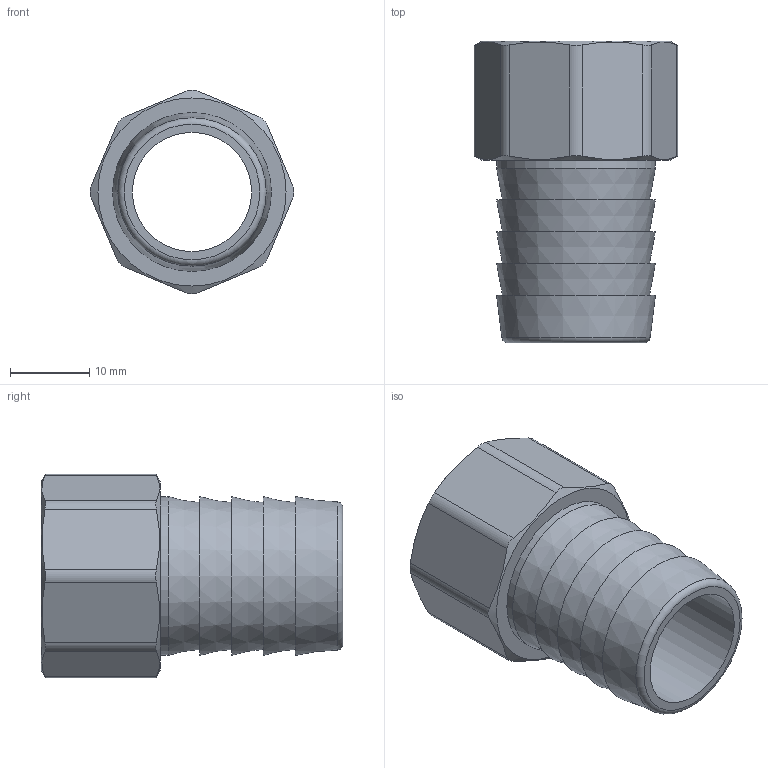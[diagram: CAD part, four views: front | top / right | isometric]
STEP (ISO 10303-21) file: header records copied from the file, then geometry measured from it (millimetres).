
FILE_DESCRIPTION(('STEP AP203'), '1');
FILE_NAME('覆.753154.016 - VTr.654.N.0420 幄鼭歑', '2024-08-02T07:37:05', ('Boss'), (''), 'C3D Converter', 'C3D Toolkit', '');
FILE_SCHEMA(('CONFIG_CONTROL_DESIGN'));
Length unit declared in the file: millimetre
Products named in the file (1): ВР.753154.016
Bounding box: 25.65 x 38 x 25.65 mm (x, y, z)
Volume: 5916.1 mm3; surface area: 5152.8 mm2
Topology: 1 solids, 1 shells, 37 faces, 83 edges, 54 vertices
Faces by surface type: plane 16, cylinder 11, cone 9, torus 1
Full cylindrical faces by diameter (mm): 15 x1, 18.632 x1, 20 x1
Entity records: 1985 total; most frequent: CARTESIAN_POINT 1220, ORIENTED_EDGE 140, DIRECTION 132, EDGE_CURVE 70, AXIS2_PLACEMENT_3D 58, EDGE_LOOP 58, VERTEX_POINT 54, ADVANCED_FACE 37
